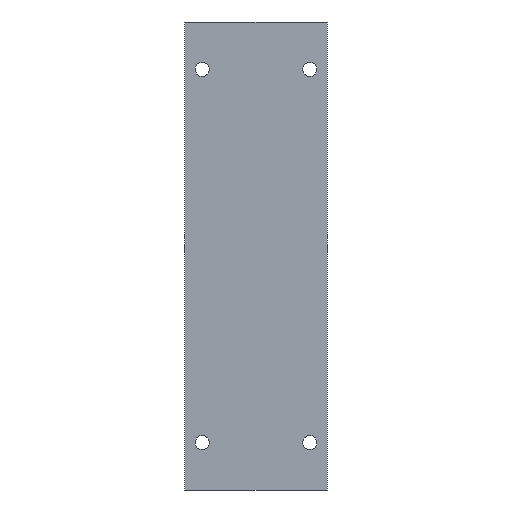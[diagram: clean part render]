
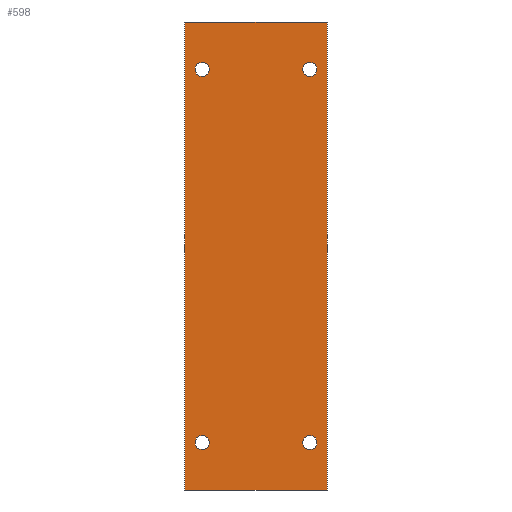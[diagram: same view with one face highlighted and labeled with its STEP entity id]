
A CAD part, front view. The second image highlights one B-rep face of the part: STEP entity #598.
In plain terms, the highlighted planar face has unit normal (0, -1, 0).
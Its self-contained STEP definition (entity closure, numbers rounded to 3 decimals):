
#4 = PLANE ( 'NONE',  #207 ) ;
#6 = FACE_OUTER_BOUND ( 'NONE', #61, .T. ) ;
#36 = VECTOR ( 'NONE', #1233, 1000. ) ;
#37 = AXIS2_PLACEMENT_3D ( 'NONE', #258, #943, #366 ) ;
#59 = CARTESIAN_POINT ( 'NONE',  ( -34., 0., 113.5 ) ) ;
#61 = EDGE_LOOP ( 'NONE', ( #242, #536, #319, #1023 ) ) ;
#62 = VERTEX_POINT ( 'NONE', #533 ) ;
#76 = VERTEX_POINT ( 'NONE', #59 ) ;
#81 = VECTOR ( 'NONE', #766, 1000. ) ;
#84 = DIRECTION ( 'NONE',  ( 0., -1., 0. ) ) ;
#120 = AXIS2_PLACEMENT_3D ( 'NONE', #287, #1151, #282 ) ;
#129 = FACE_BOUND ( 'NONE', #1152, .T. ) ;
#139 = CARTESIAN_POINT ( 'NONE',  ( 34., 0., 122.5 ) ) ;
#147 = ORIENTED_EDGE ( 'NONE', *, *, #616, .T. ) ;
#150 = EDGE_CURVE ( 'NONE', #408, #365, #1064, .T. ) ;
#158 = CARTESIAN_POINT ( 'NONE',  ( -45., 0., -148. ) ) ;
#179 = VERTEX_POINT ( 'NONE', #1116 ) ;
#189 = CIRCLE ( 'NONE', #120, 4.5 ) ;
#207 = AXIS2_PLACEMENT_3D ( 'NONE', #776, #84, #771 ) ;
#208 = CARTESIAN_POINT ( 'NONE',  ( -34., 0., 118. ) ) ;
#209 = EDGE_LOOP ( 'NONE', ( #753, #370 ) ) ;
#219 = VERTEX_POINT ( 'NONE', #956 ) ;
#231 = DIRECTION ( 'NONE',  ( 0., 0., -1. ) ) ;
#237 = CARTESIAN_POINT ( 'NONE',  ( 34., 0., -118. ) ) ;
#240 = EDGE_CURVE ( 'NONE', #179, #408, #427, .T. ) ;
#242 = ORIENTED_EDGE ( 'NONE', *, *, #240, .F. ) ;
#258 = CARTESIAN_POINT ( 'NONE',  ( -34., 0., 118. ) ) ;
#272 = EDGE_CURVE ( 'NONE', #791, #76, #625, .T. ) ;
#282 = DIRECTION ( 'NONE',  ( 0., 0., -1. ) ) ;
#287 = CARTESIAN_POINT ( 'NONE',  ( 34., 0., -118. ) ) ;
#319 = ORIENTED_EDGE ( 'NONE', *, *, #845, .F. ) ;
#334 = EDGE_CURVE ( 'NONE', #219, #1082, #1118, .T. ) ;
#340 = CARTESIAN_POINT ( 'NONE',  ( -34., 0., -118. ) ) ;
#344 = DIRECTION ( 'NONE',  ( 0., -1., 0. ) ) ;
#359 = CARTESIAN_POINT ( 'NONE',  ( -45., 0., 148. ) ) ;
#365 = VERTEX_POINT ( 'NONE', #1097 ) ;
#366 = DIRECTION ( 'NONE',  ( 0., 0., 1. ) ) ;
#368 = LINE ( 'NONE', #359, #382 ) ;
#370 = ORIENTED_EDGE ( 'NONE', *, *, #835, .T. ) ;
#382 = VECTOR ( 'NONE', #559, 1000. ) ;
#388 = AXIS2_PLACEMENT_3D ( 'NONE', #208, #1045, #467 ) ;
#407 = EDGE_CURVE ( 'NONE', #970, #62, #800, .T. ) ;
#408 = VERTEX_POINT ( 'NONE', #537 ) ;
#427 = LINE ( 'NONE', #671, #36 ) ;
#436 = VERTEX_POINT ( 'NONE', #139 ) ;
#457 = EDGE_LOOP ( 'NONE', ( #820, #1180 ) ) ;
#467 = DIRECTION ( 'NONE',  ( 0., 0., 1. ) ) ;
#471 = CARTESIAN_POINT ( 'NONE',  ( 34., 0., 118. ) ) ;
#511 = EDGE_CURVE ( 'NONE', #436, #858, #682, .T. ) ;
#524 = FACE_BOUND ( 'NONE', #209, .T. ) ;
#533 = CARTESIAN_POINT ( 'NONE',  ( -34., 0., -113.5 ) ) ;
#536 = ORIENTED_EDGE ( 'NONE', *, *, #645, .F. ) ;
#537 = CARTESIAN_POINT ( 'NONE',  ( 45., 0., -148. ) ) ;
#545 = AXIS2_PLACEMENT_3D ( 'NONE', #237, #1183, #231 ) ;
#559 = DIRECTION ( 'NONE',  ( 0., 0., 1. ) ) ;
#586 = DIRECTION ( 'NONE',  ( 0., 0., -1. ) ) ;
#598 = ADVANCED_FACE ( 'NONE', ( #639, #524, #6, #999, #129 ), #4, .T. ) ;
#616 = EDGE_CURVE ( 'NONE', #1082, #219, #189, .T. ) ;
#625 = CIRCLE ( 'NONE', #388, 4.5 ) ;
#639 = FACE_BOUND ( 'NONE', #457, .T. ) ;
#643 = EDGE_CURVE ( 'NONE', #858, #436, #1174, .T. ) ;
#644 = DIRECTION ( 'NONE',  ( 0., 0., 1. ) ) ;
#645 = EDGE_CURVE ( 'NONE', #1192, #179, #700, .T. ) ;
#660 = AXIS2_PLACEMENT_3D ( 'NONE', #1126, #1019, #644 ) ;
#671 = CARTESIAN_POINT ( 'NONE',  ( 45., 0., 148. ) ) ;
#682 = CIRCLE ( 'NONE', #660, 4.5 ) ;
#700 = LINE ( 'NONE', #850, #81 ) ;
#727 = ORIENTED_EDGE ( 'NONE', *, *, #334, .T. ) ;
#753 = ORIENTED_EDGE ( 'NONE', *, *, #272, .T. ) ;
#756 = CARTESIAN_POINT ( 'NONE',  ( 34., 0., 113.5 ) ) ;
#759 = CIRCLE ( 'NONE', #37, 4.5 ) ;
#766 = DIRECTION ( 'NONE',  ( 1., 0., 0. ) ) ;
#769 = DIRECTION ( 'NONE',  ( 0., -1., 0. ) ) ;
#771 = DIRECTION ( 'NONE',  ( 0., 0., -1. ) ) ;
#776 = CARTESIAN_POINT ( 'NONE',  ( 0., 0., 0. ) ) ;
#791 = VERTEX_POINT ( 'NONE', #972 ) ;
#800 = CIRCLE ( 'NONE', #1213, 4.5 ) ;
#820 = ORIENTED_EDGE ( 'NONE', *, *, #511, .F. ) ;
#827 = DIRECTION ( 'NONE',  ( -1., 0., 0. ) ) ;
#835 = EDGE_CURVE ( 'NONE', #76, #791, #759, .T. ) ;
#845 = EDGE_CURVE ( 'NONE', #365, #1192, #368, .T. ) ;
#850 = CARTESIAN_POINT ( 'NONE',  ( -45., 0., 148. ) ) ;
#858 = VERTEX_POINT ( 'NONE', #756 ) ;
#863 = VECTOR ( 'NONE', #827, 1000. ) ;
#882 = CARTESIAN_POINT ( 'NONE',  ( 34., 0., -122.5 ) ) ;
#894 = AXIS2_PLACEMENT_3D ( 'NONE', #471, #1063, #1153 ) ;
#917 = EDGE_CURVE ( 'NONE', #62, #970, #1013, .T. ) ;
#943 = DIRECTION ( 'NONE',  ( 0., 1., 0. ) ) ;
#956 = CARTESIAN_POINT ( 'NONE',  ( 34., 0., -113.5 ) ) ;
#970 = VERTEX_POINT ( 'NONE', #1231 ) ;
#972 = CARTESIAN_POINT ( 'NONE',  ( -34., 0., 122.5 ) ) ;
#977 = CARTESIAN_POINT ( 'NONE',  ( -45., 0., 148. ) ) ;
#982 = EDGE_LOOP ( 'NONE', ( #727, #147 ) ) ;
#999 = FACE_BOUND ( 'NONE', #982, .T. ) ;
#1013 = CIRCLE ( 'NONE', #1065, 4.5 ) ;
#1014 = DIRECTION ( 'NONE',  ( 0., 0., -1. ) ) ;
#1019 = DIRECTION ( 'NONE',  ( 0., -1., 0. ) ) ;
#1023 = ORIENTED_EDGE ( 'NONE', *, *, #150, .F. ) ;
#1045 = DIRECTION ( 'NONE',  ( 0., 1., 0. ) ) ;
#1063 = DIRECTION ( 'NONE',  ( 0., -1., 0. ) ) ;
#1064 = LINE ( 'NONE', #158, #863 ) ;
#1065 = AXIS2_PLACEMENT_3D ( 'NONE', #1144, #769, #586 ) ;
#1082 = VERTEX_POINT ( 'NONE', #882 ) ;
#1097 = CARTESIAN_POINT ( 'NONE',  ( -45., 0., -148. ) ) ;
#1116 = CARTESIAN_POINT ( 'NONE',  ( 45., 0., 148. ) ) ;
#1118 = CIRCLE ( 'NONE', #545, 4.5 ) ;
#1126 = CARTESIAN_POINT ( 'NONE',  ( 34., 0., 118. ) ) ;
#1144 = CARTESIAN_POINT ( 'NONE',  ( -34., 0., -118. ) ) ;
#1151 = DIRECTION ( 'NONE',  ( 0., 1., 0. ) ) ;
#1152 = EDGE_LOOP ( 'NONE', ( #1155, #1157 ) ) ;
#1153 = DIRECTION ( 'NONE',  ( 0., 0., 1. ) ) ;
#1155 = ORIENTED_EDGE ( 'NONE', *, *, #917, .F. ) ;
#1157 = ORIENTED_EDGE ( 'NONE', *, *, #407, .F. ) ;
#1174 = CIRCLE ( 'NONE', #894, 4.5 ) ;
#1180 = ORIENTED_EDGE ( 'NONE', *, *, #643, .F. ) ;
#1183 = DIRECTION ( 'NONE',  ( 0., 1., 0. ) ) ;
#1192 = VERTEX_POINT ( 'NONE', #977 ) ;
#1213 = AXIS2_PLACEMENT_3D ( 'NONE', #340, #344, #1014 ) ;
#1231 = CARTESIAN_POINT ( 'NONE',  ( -34., 0., -122.5 ) ) ;
#1233 = DIRECTION ( 'NONE',  ( 0., 0., -1. ) ) ;
